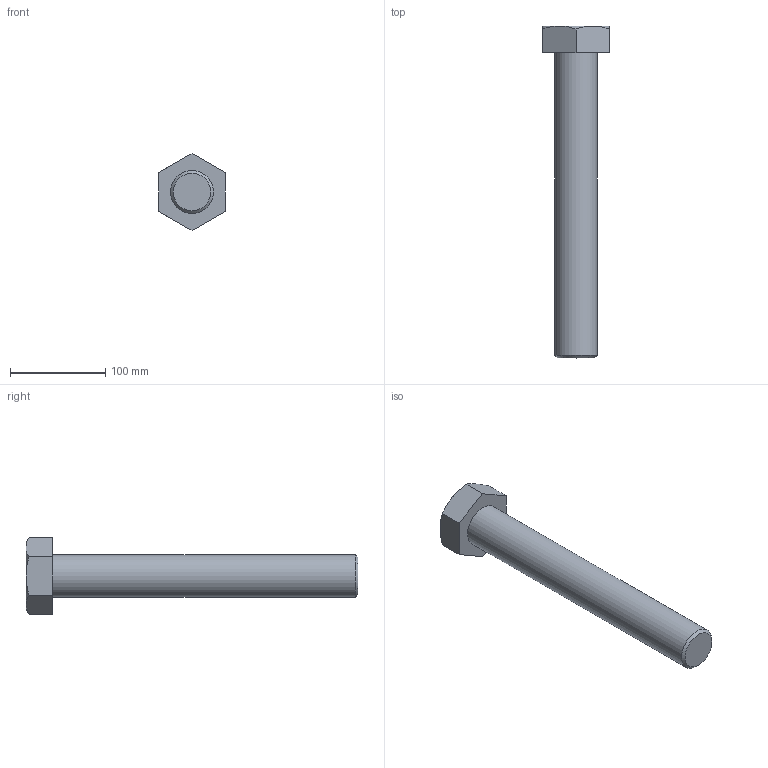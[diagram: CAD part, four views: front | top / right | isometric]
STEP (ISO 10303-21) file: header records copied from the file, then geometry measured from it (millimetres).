
FILE_DESCRIPTION(/* description */ (''),/* implementation_level */ '2;1');
FILE_NAME(/* name */ 'C:\Users\unitec\Documents\Inventor\各種小物\JIS\JIS B 1180 六角ボルト 等級C\hbc45\M45x320.stp',/* time_stamp */ '2015-02-13T14:58:25+09:00',/* author */ ('unitec'),/* organization */ (''),/* preprocessor_version */ 'ST-DEVELOPER v15.2',/* originating_system */ 'Autodesk Inventor 2014',/* authorisation */ '');
FILE_SCHEMA (('AUTOMOTIVE_DESIGN { 1 0 10303 214 3 1 1 }'));
Length unit declared in the file: millimetre
Products named in the file (1): M45x320
Bounding box: 70 x 348 x 80.83 mm (x, y, z)
Volume: 626867.9 mm3; surface area: 60078.3 mm2
Topology: 1 solids, 1 shells, 17 faces, 35 edges, 21 vertices
Faces by surface type: plane 9, cone 7, cylinder 1
Full cylindrical faces by diameter (mm): 45 x1
Entity records: 441 total; most frequent: CARTESIAN_POINT 96, ORIENTED_EDGE 66, DIRECTION 66, EDGE_CURVE 33, AXIS2_PLACEMENT_3D 27, VERTEX_POINT 21, EDGE_LOOP 20, ADVANCED_FACE 17
